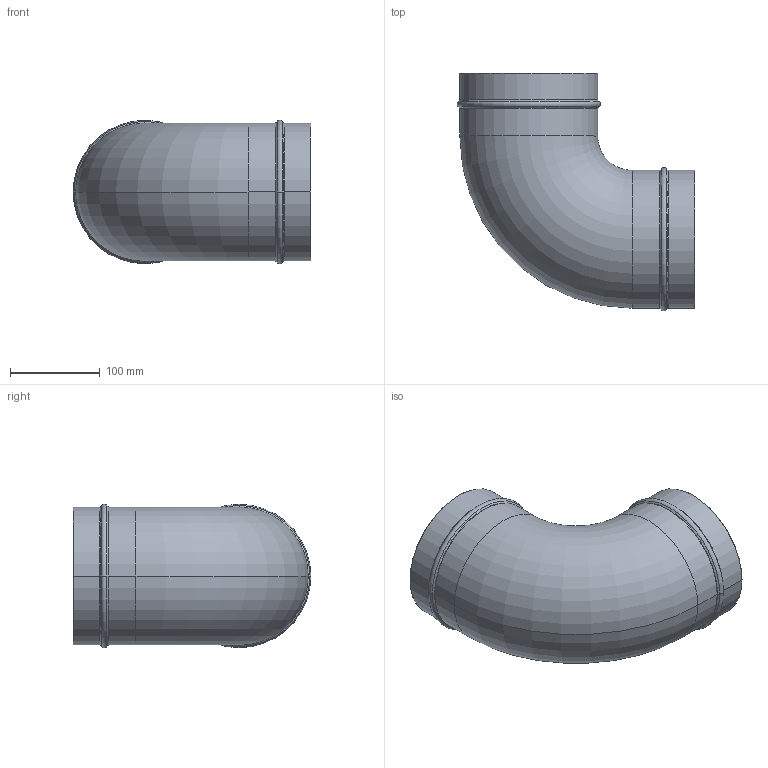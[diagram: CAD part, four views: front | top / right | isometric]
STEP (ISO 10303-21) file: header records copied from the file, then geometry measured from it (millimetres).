
FILE_DESCRIPTION((''),'2;1');
FILE_NAME('2012900300','2017-05-09T',('Administrator'),(''),'PRO/ENGINEER BY PARAMETRIC TECHNOLOGY CORPORATION, 2009360','PRO/ENGINEER BY PARAMETRIC TECHNOLOGY CORPORATION, 2009360','');
FILE_SCHEMA(('AUTOMOTIVE_DESIGN_CC2 { 1 2 10303 214 -1 1 5 2 }'));
Length unit declared in the file: millimetre
Products named in the file (1): 2012900300
Bounding box: 264.78 x 264.78 x 159.57 mm (x, y, z)
Volume: 766241.6 mm3; surface area: 305969.2 mm2
Topology: 1 solids, 1 shells, 42 faces, 84 edges, 44 vertices
Faces by surface type: torus 20, cylinder 12, cone 8, plane 2
Entity records: 1371 total; most frequent: DIRECTION 232, CARTESIAN_POINT 170, ORIENTED_EDGE 168, AXIS2_PLACEMENT_3D 106, PRESENTATION_STYLE_ASSIGNMENT 85, STYLED_ITEM 85, CURVE_STYLE 84, EDGE_CURVE 84
